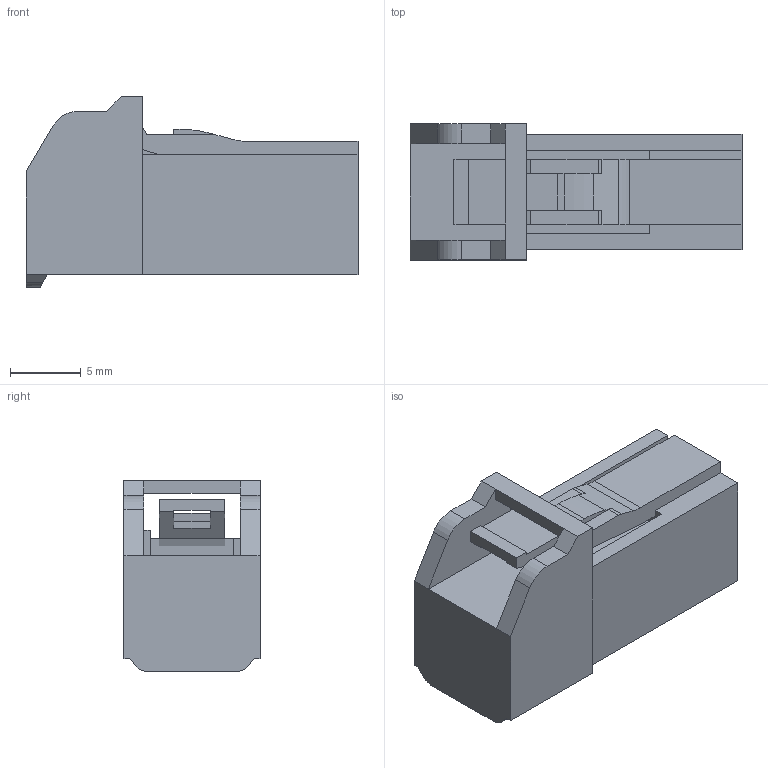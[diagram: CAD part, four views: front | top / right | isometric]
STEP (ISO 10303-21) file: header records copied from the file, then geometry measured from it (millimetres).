
FILE_DESCRIPTION(('CATIA V5 STEP','CAx-IF Rec.Pracs.--- Model Styling and Organization---1.4--- 2014-01-23'),'2;1');
FILE_NAME('\\fs0427\Server\共有情報\コネクタ開発部\特命業務\特ｰ35ｰ部品総合カタログメンテナンス\21年度\掲載用３Dモデル\ETHERNET\ETHERNET３D(トヨタ提出していないものがあるのでチェックしてください）\6910-8253.stp','2023-04-06T00:05:11+00:00',('none'),('none'),'CATIA Version 5-6 Release 2017 SP5 HF58','CATIA V5 STEP AP214','none');
FILE_SCHEMA(('AUTOMOTIVE_DESIGN { 1 0 10303 214 1 1 1 1 }'));
Length unit declared in the file: millimetre
Products named in the file (1): 6910-8253
Bounding box: 23.4 x 9.6 x 13.45 mm (x, y, z)
Volume: 1757.9 mm3; surface area: 1413.6 mm2
Topology: 1 solids, 1 shells, 73 faces, 217 edges, 142 vertices
Faces by surface type: plane 65, cylinder 8
Entity records: 2459 total; most frequent: CARTESIAN_POINT 444, ORIENTED_EDGE 434, DIRECTION 339, EDGE_CURVE 217, VECTOR 201, LINE 201, VERTEX_POINT 142, AXIS2_PLACEMENT_3D 77
